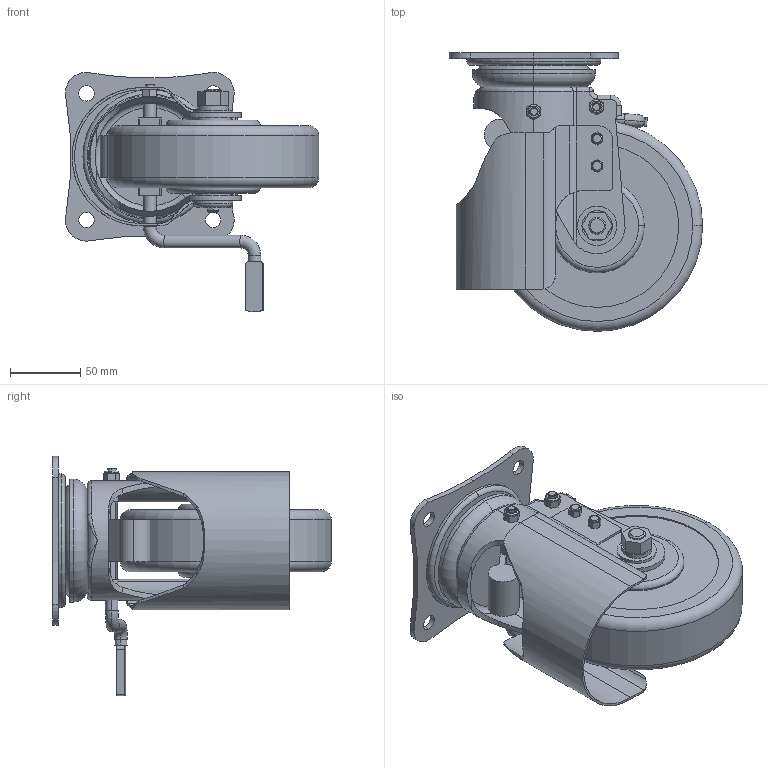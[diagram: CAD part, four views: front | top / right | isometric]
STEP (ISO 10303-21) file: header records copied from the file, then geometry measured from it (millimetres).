
FILE_DESCRIPTION (( 'STEP AP214' ), '1' );
FILE_NAME ('NSFJSZAZ150rev0.STEP', '2017-11-29T04:09:29', ( '' ), ( '' ), 'SwSTEP 2.0', 'SolidWorks 2013', '' );
FILE_SCHEMA (( 'AUTOMOTIVE_DESIGN' ));
Length unit declared in the file: millimetre
Products named in the file (7): NSFJSZAZ150rev2; NSFJSZAZ150rev6; NSFJSZAZ150rev4; NSFJSZAZ150rev5; NSFJSZAZ150rev0; NSFJSZAZ150rev1; NSFJSZAZ150rev3
Assembly tree (6 placements, depth 2):
  NSFJSZAZ150rev0
    NSFJSZAZ150rev1
    NSFJSZAZ150rev2
    NSFJSZAZ150rev3
    NSFJSZAZ150rev4
    NSFJSZAZ150rev5
    NSFJSZAZ150rev6
Bounding box: 180 x 198 x 170.18 mm (x, y, z)
Volume: 1130643.7 mm3; surface area: 212153.4 mm2
Topology: 9 solids, 9 shells, 367 faces, 867 edges, 538 vertices
Faces by surface type: plane 173, cylinder 138, torus 46, cone 6, bspline 4
Entity records: 11319 total; most frequent: CARTESIAN_POINT 2521, DIRECTION 1872, ORIENTED_EDGE 1726, EDGE_CURVE 863, AXIS2_PLACEMENT_3D 727, VERTEX_POINT 538, LINE 418, VECTOR 418
